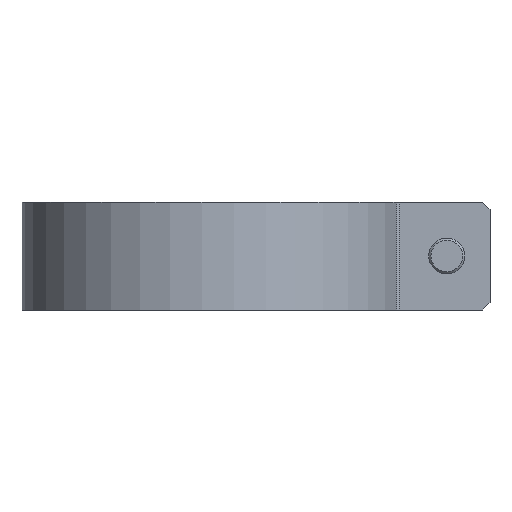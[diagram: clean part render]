
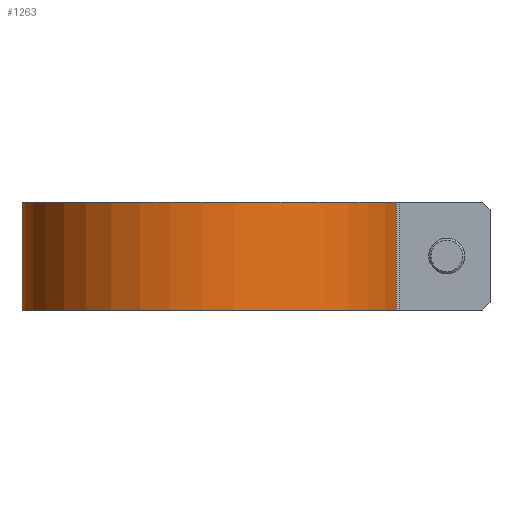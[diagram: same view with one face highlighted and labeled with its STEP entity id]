
A CAD part, front view. The second image highlights one B-rep face of the part: STEP entity #1263.
In plain terms, the highlighted cylindrical face has radius 26.5 mm (diameter 53 mm), a partial arc.
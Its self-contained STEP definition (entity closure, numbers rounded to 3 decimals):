
#656 = ORIENTED_EDGE ( 'NONE', *, *, #3307, .T. ) ;
#779 = DIRECTION ( 'NONE',  ( 0., 0., 1. ) ) ;
#1218 = VERTEX_POINT ( 'NONE', #12659 ) ;
#1263 = ADVANCED_FACE ( 'NONE', ( #1758 ), #12218, .T. ) ;
#1758 = FACE_OUTER_BOUND ( 'NONE', #15282, .T. ) ;
#2059 = CIRCLE ( 'NONE', #5144, 26.5 ) ;
#2239 = AXIS2_PLACEMENT_3D ( 'NONE', #9298, #779, #10709 ) ;
#2860 = VECTOR ( 'NONE', #16037, 1000. ) ;
#3183 = CARTESIAN_POINT ( 'NONE',  ( -26.5, 0., 15. ) ) ;
#3307 = EDGE_CURVE ( 'NONE', #5463, #15240, #7965, .T. ) ;
#5144 = AXIS2_PLACEMENT_3D ( 'NONE', #6322, #16306, #7757 ) ;
#5463 = VERTEX_POINT ( 'NONE', #17962 ) ;
#6322 = CARTESIAN_POINT ( 'NONE',  ( 0., 0., 15. ) ) ;
#6635 = EDGE_CURVE ( 'NONE', #1218, #5463, #12040, .T. ) ;
#7757 = DIRECTION ( 'NONE',  ( 1., 0., 0. ) ) ;
#7965 = LINE ( 'NONE', #10438, #15129 ) ;
#8753 = ORIENTED_EDGE ( 'NONE', *, *, #6635, .T. ) ;
#9298 = CARTESIAN_POINT ( 'NONE',  ( 0., 0., 0. ) ) ;
#10438 = CARTESIAN_POINT ( 'NONE',  ( 25.457, -7.361, 15. ) ) ;
#10587 = EDGE_CURVE ( 'NONE', #15491, #15240, #2059, .T. ) ;
#10709 = DIRECTION ( 'NONE',  ( 1., 0., 0. ) ) ;
#10865 = LINE ( 'NONE', #3183, #2860 ) ;
#10956 = AXIS2_PLACEMENT_3D ( 'NONE', #13808, #14778, #13961 ) ;
#12040 = CIRCLE ( 'NONE', #2239, 26.5 ) ;
#12073 = CARTESIAN_POINT ( 'NONE',  ( -26.5, 0., 15. ) ) ;
#12218 = CYLINDRICAL_SURFACE ( 'NONE', #10956, 26.5 ) ;
#12659 = CARTESIAN_POINT ( 'NONE',  ( -26.5, 0., 0. ) ) ;
#12805 = EDGE_CURVE ( 'NONE', #15491, #1218, #10865, .T. ) ;
#13808 = CARTESIAN_POINT ( 'NONE',  ( 0., 0., 15. ) ) ;
#13961 = DIRECTION ( 'NONE',  ( -1., 0., 0. ) ) ;
#14294 = CARTESIAN_POINT ( 'NONE',  ( 25.457, -7.361, 15. ) ) ;
#14778 = DIRECTION ( 'NONE',  ( 0., 0., -1. ) ) ;
#15129 = VECTOR ( 'NONE', #16174, 1000. ) ;
#15240 = VERTEX_POINT ( 'NONE', #14294 ) ;
#15282 = EDGE_LOOP ( 'NONE', ( #15408, #16853, #8753, #656 ) ) ;
#15408 = ORIENTED_EDGE ( 'NONE', *, *, #10587, .F. ) ;
#15491 = VERTEX_POINT ( 'NONE', #12073 ) ;
#16037 = DIRECTION ( 'NONE',  ( 0., 0., -1. ) ) ;
#16174 = DIRECTION ( 'NONE',  ( 0., 0., 1. ) ) ;
#16306 = DIRECTION ( 'NONE',  ( 0., 0., 1. ) ) ;
#16853 = ORIENTED_EDGE ( 'NONE', *, *, #12805, .T. ) ;
#17962 = CARTESIAN_POINT ( 'NONE',  ( 25.457, -7.361, 0. ) ) ;
